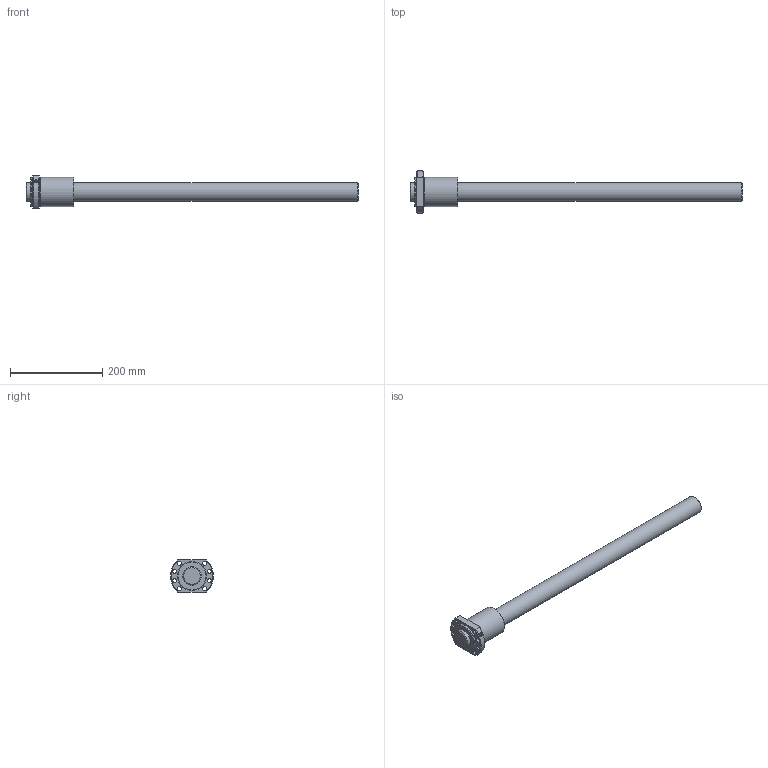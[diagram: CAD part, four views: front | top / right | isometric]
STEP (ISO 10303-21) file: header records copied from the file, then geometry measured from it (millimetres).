
FILE_DESCRIPTION(/* description */ ('STEP AP214'),/* implementation_level */ '2;1');
FILE_NAME(/* name */ 'EBB4010-4RRG0+720LC0-ebb2(606G000)-ebb2',/* time_stamp */ '2023-08-03T12:52:12+02:00',/* author */ ('License CC BY-ND 4.0'),/* organization */ ('CADENAS'),/* preprocessor_version */ 'ST-DEVELOPER v19.3',/* originating_system */ 'PARTsolutions',/* authorisation */ ' ');
FILE_SCHEMA (('AUTOMOTIVE_DESIGN {1 0 10303 214 3 1 1}'));
Length unit declared in the file: millimetre
Products named in the file (3): EBB4010-4RRG0+720LC0-ebb2(606G000)-ebb2; EBB 4010-4RR Nut2; EBB 4010-46060 Shaft2
Assembly tree (2 placements, depth 2):
  EBB4010-4RRG0+720LC0-ebb2(606G000)-ebb2
    EBB 4010-4RR Nut2
    EBB 4010-46060 Shaft2
Bounding box: 720 x 93 x 70 mm (x, y, z)
Volume: 1107405.1 mm3; surface area: 136178 mm2
Topology: 2 solids, 2 shells, 34 faces, 77 edges, 50 vertices
Faces by surface type: cylinder 16, cone 9, plane 9
Full cylindrical faces by diameter (mm): 6.647 x1, 9 x8, 40 x2, 59.22 x1, 63 x2
Entity records: 1003 total; most frequent: CARTESIAN_POINT 187, DIRECTION 160, ORIENTED_EDGE 114, EDGE_LOOP 76, FACE_BOUND 76, AXIS2_PLACEMENT_3D 76, EDGE_CURVE 57, VERTEX_POINT 49
